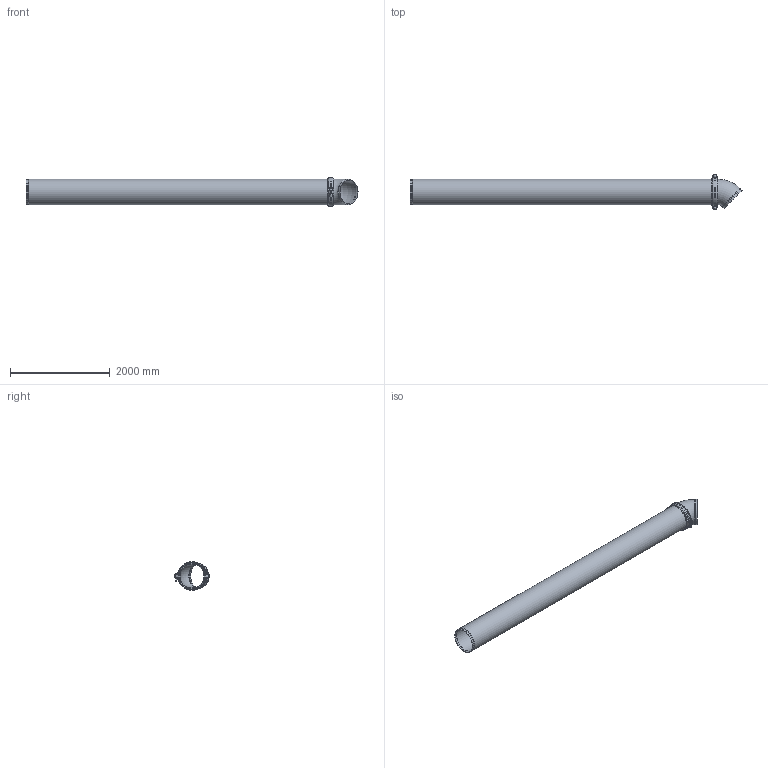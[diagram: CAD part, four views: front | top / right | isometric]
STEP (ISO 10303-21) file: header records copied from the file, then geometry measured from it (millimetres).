
FILE_DESCRIPTION(/* description */ ('VIC AGS LONG RUN FITTING No WR11 (AGS)','CAx-IF Rec.Pracs.---Representation and Presentation of Product Manufacturing Information (PMI)---4.0---2014-10-13'),/* implementation_level */ '2;1');
FILE_NAME(/* name */ 'C:\Users\Vjadhav\AppData\Roaming\Autodesk\ApplicationPlugins\Back Up\Victaulic_AGS_Long Run Fittings_No WR11 (AGS)\Victaulic_AGS_Long Run Fittings_No WR11 (AGS)_20 (500).stp',/* time_stamp */ '2020-10-14T15:37:38+05:00',/* author */ ('Vjadhav'),/* organization */ ('Victaulic'),/* preprocessor_version */ 'ST-DEVELOPER v17.2',/* originating_system */ 'Autodesk Inventor 2019',/* authorisation */ '');
FILE_SCHEMA (('AP242_MANAGED_MODEL_BASED_3D_ENGINEERING_MIM_LF { 1 0 10303 442 1 1 4 }'));
Length unit declared in the file: inch
Products named in the file (4): WR11-20.0; WR10-20.0; W07-20.0; W11-20.0
Assembly tree (3 placements, depth 2):
  WR11-20.0
    WR10-20.0
    W07-20.0
    W11-20.0
Bounding box: 6640.98 x 689.1 x 571.47 mm (x, y, z)
Volume: 106941545.5 mm3; surface area: 21058539.9 mm2
Topology: 3 solids, 5 shells, 119 faces, 334 edges, 237 vertices
Faces by surface type: plane 50, cylinder 41, torus 18, cone 8, sphere 2
Full cylindrical faces by diameter (mm): 28.575 x4, 47.625 x2, 474.472 x2, 482.6 x1, 488.95 x1, 495.3 x4, 508 x9
Entity records: 4660 total; most frequent: CARTESIAN_POINT 1095, DIRECTION 745, ORIENTED_EDGE 668, EDGE_CURVE 334, AXIS2_PLACEMENT_3D 301, VERTEX_POINT 237, CIRCLE 171, LINE 143
